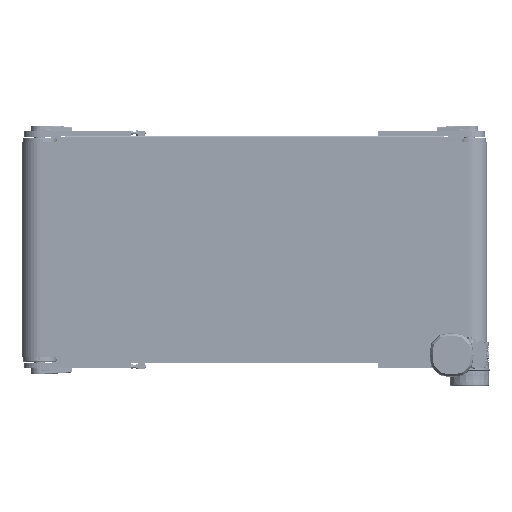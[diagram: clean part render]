
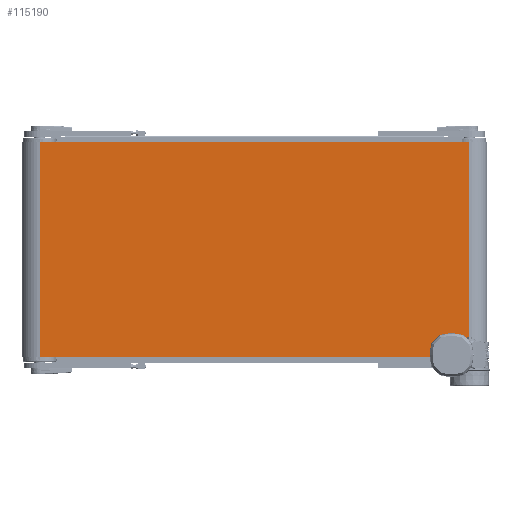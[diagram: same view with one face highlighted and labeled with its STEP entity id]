
A CAD part, front view. The second image highlights one B-rep face of the part: STEP entity #115190.
In plain terms, the highlighted planar face has unit normal (0, -1, 0).
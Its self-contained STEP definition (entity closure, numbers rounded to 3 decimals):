
#7020 = CARTESIAN_POINT ( 'NONE',  ( -600., -49.5, 300. ) ) ;
#8220 = DIRECTION ( 'NONE',  ( 0., 0., -1. ) ) ;
#14684 = ORIENTED_EDGE ( 'NONE', *, *, #135808, .F. ) ;
#22470 = ORIENTED_EDGE ( 'NONE', *, *, #101987, .T. ) ;
#28192 = VECTOR ( 'NONE', #145435, 1000. ) ;
#35548 = DIRECTION ( 'NONE',  ( 0., 1., 0. ) ) ;
#66893 = CARTESIAN_POINT ( 'NONE',  ( 600., -49.5, 300. ) ) ;
#67080 = ORIENTED_EDGE ( 'NONE', *, *, #109799, .F. ) ;
#68383 = VERTEX_POINT ( 'NONE', #123578 ) ;
#68396 = EDGE_CURVE ( 'NONE', #110254, #68383, #104826, .T. ) ;
#69472 = AXIS2_PLACEMENT_3D ( 'NONE', #7020, #35548, #172043 ) ;
#71027 = CARTESIAN_POINT ( 'NONE',  ( -600., -49.5, -300. ) ) ;
#76159 = FACE_OUTER_BOUND ( 'NONE', #134549, .T. ) ;
#79147 = CARTESIAN_POINT ( 'NONE',  ( 600., -49.5, 300. ) ) ;
#87375 = VECTOR ( 'NONE', #8220, 1000. ) ;
#97547 = DIRECTION ( 'NONE',  ( 1., 0., 0. ) ) ;
#98268 = LINE ( 'NONE', #169202, #179730 ) ;
#100076 = DIRECTION ( 'NONE',  ( 0., 0., -1. ) ) ;
#101987 = EDGE_CURVE ( 'NONE', #147851, #110254, #98268, .T. ) ;
#104826 = LINE ( 'NONE', #71027, #28192 ) ;
#109799 = EDGE_CURVE ( 'NONE', #147851, #160333, #154668, .T. ) ;
#110254 = VERTEX_POINT ( 'NONE', #129061 ) ;
#115190 = ADVANCED_FACE ( 'NONE', ( #76159 ), #132390, .F. ) ;
#123578 = CARTESIAN_POINT ( 'NONE',  ( 600., -49.5, -300. ) ) ;
#126408 = ORIENTED_EDGE ( 'NONE', *, *, #68396, .T. ) ;
#127368 = VECTOR ( 'NONE', #97547, 1000. ) ;
#129061 = CARTESIAN_POINT ( 'NONE',  ( -600., -49.5, -300. ) ) ;
#132390 = PLANE ( 'NONE',  #69472 ) ;
#134549 = EDGE_LOOP ( 'NONE', ( #126408, #14684, #67080, #22470 ) ) ;
#135808 = EDGE_CURVE ( 'NONE', #160333, #68383, #163029, .T. ) ;
#141761 = CARTESIAN_POINT ( 'NONE',  ( -600., -49.5, 300. ) ) ;
#143733 = CARTESIAN_POINT ( 'NONE',  ( -600., -49.5, 300. ) ) ;
#145435 = DIRECTION ( 'NONE',  ( 1., 0., 0. ) ) ;
#147851 = VERTEX_POINT ( 'NONE', #143733 ) ;
#154668 = LINE ( 'NONE', #141761, #127368 ) ;
#160333 = VERTEX_POINT ( 'NONE', #66893 ) ;
#163029 = LINE ( 'NONE', #79147, #87375 ) ;
#169202 = CARTESIAN_POINT ( 'NONE',  ( -600., -49.5, 300. ) ) ;
#172043 = DIRECTION ( 'NONE',  ( 0., 0., 1. ) ) ;
#179730 = VECTOR ( 'NONE', #100076, 1000. ) ;
